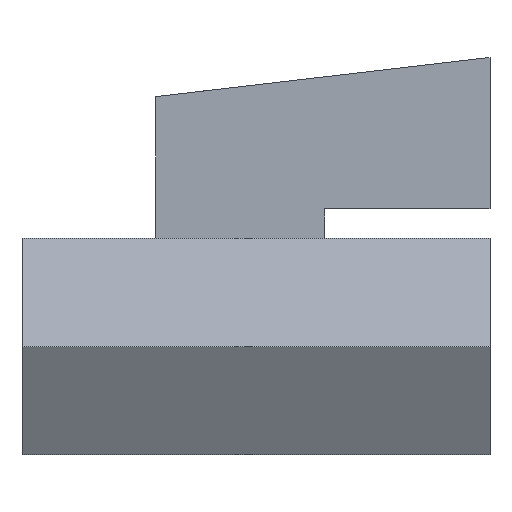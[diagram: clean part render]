
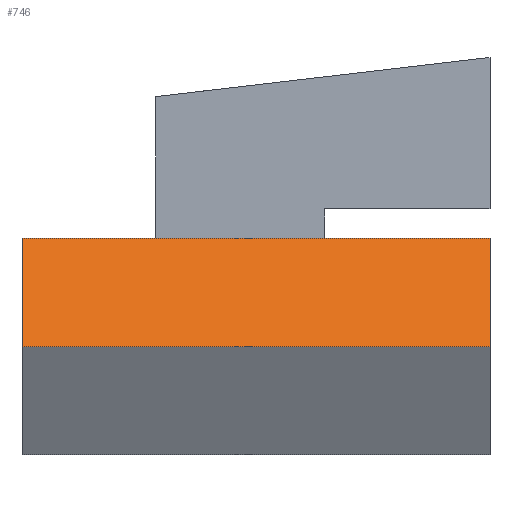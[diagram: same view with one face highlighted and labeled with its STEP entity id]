
A CAD part, front view. The second image highlights one B-rep face of the part: STEP entity #746.
In plain terms, the highlighted planar face has unit normal (0, -0.866, 0.5).
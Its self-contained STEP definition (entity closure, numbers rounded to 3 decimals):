
#24 = VERTEX_POINT('',#25);
#25 = CARTESIAN_POINT('',(-1.7,-0.227,0.393));
#32 = PLANE('',#33);
#33 = AXIS2_PLACEMENT_3D('',#34,#35,#36);
#34 = CARTESIAN_POINT('',(0.,0.,0.393));
#35 = DIRECTION('',(0.,0.,1.));
#36 = DIRECTION('',(0.,1.,0.));
#44 = PLANE('',#45);
#45 = AXIS2_PLACEMENT_3D('',#46,#47,#48);
#46 = CARTESIAN_POINT('',(-1.7,0.,0.)
  );
#47 = DIRECTION('',(1.,0.,0.));
#48 = DIRECTION('',(0.,0.,-1.));
#56 = EDGE_CURVE('',#57,#24,#59,.T.);
#57 = VERTEX_POINT('',#58);
#58 = CARTESIAN_POINT('',(0.,-0.227,0.393));
#59 = SURFACE_CURVE('',#60,(#64,#71),.PCURVE_S1.);
#60 = LINE('',#61,#62);
#61 = CARTESIAN_POINT('',(0.,-0.227,0.393));
#62 = VECTOR('',#63,1.);
#63 = DIRECTION('',(-1.,0.,0.));
#64 = PCURVE('',#32,#65);
#65 = DEFINITIONAL_REPRESENTATION('',(#66),#70);
#66 = LINE('',#67,#68);
#67 = CARTESIAN_POINT('',(-0.227,0.));
#68 = VECTOR('',#69,1.);
#69 = DIRECTION('',(0.,1.));
#70 = ( GEOMETRIC_REPRESENTATION_CONTEXT(2) 
PARAMETRIC_REPRESENTATION_CONTEXT() REPRESENTATION_CONTEXT('2D SPACE',''
  ) );
#71 = PCURVE('',#72,#77);
#72 = PLANE('',#73);
#73 = AXIS2_PLACEMENT_3D('',#74,#75,#76);
#74 = CARTESIAN_POINT('',(0.,-0.34,0.196));
#75 = DIRECTION('',(0.,-0.866,0.5));
#76 = DIRECTION('',(0.,0.5,0.866));
#77 = DEFINITIONAL_REPRESENTATION('',(#78),#82);
#78 = LINE('',#79,#80);
#79 = CARTESIAN_POINT('',(0.227,0.));
#80 = VECTOR('',#81,1.);
#81 = DIRECTION('',(0.,1.));
#82 = ( GEOMETRIC_REPRESENTATION_CONTEXT(2) 
PARAMETRIC_REPRESENTATION_CONTEXT() REPRESENTATION_CONTEXT('2D SPACE',''
  ) );
#100 = PLANE('',#101);
#101 = AXIS2_PLACEMENT_3D('',#102,#103,#104);
#102 = CARTESIAN_POINT('',(0.,0.,0.));
#103 = DIRECTION('',(1.,0.,0.));
#104 = DIRECTION('',(0.,0.,-1.));
#617 = PLANE('',#618);
#618 = AXIS2_PLACEMENT_3D('',#619,#620,#621);
#619 = CARTESIAN_POINT('',(0.,-0.34,-0.196));
#620 = DIRECTION('',(0.,-0.866,-0.5));
#621 = DIRECTION('',(0.,-0.5,0.866));
#746 = ADVANCED_FACE('',(#747),#72,.T.);
#747 = FACE_BOUND('',#748,.T.);
#748 = EDGE_LOOP('',(#749,#772,#795,#816));
#749 = ORIENTED_EDGE('',*,*,#750,.T.);
#750 = EDGE_CURVE('',#24,#751,#753,.T.);
#751 = VERTEX_POINT('',#752);
#752 = CARTESIAN_POINT('',(-1.7,-0.453,0.));
#753 = SURFACE_CURVE('',#754,(#758,#765),.PCURVE_S1.);
#754 = LINE('',#755,#756);
#755 = CARTESIAN_POINT('',(-1.7,-0.453,0.));
#756 = VECTOR('',#757,1.);
#757 = DIRECTION('',(0.,-0.5,-0.866));
#758 = PCURVE('',#72,#759);
#759 = DEFINITIONAL_REPRESENTATION('',(#760),#764);
#760 = LINE('',#761,#762);
#761 = CARTESIAN_POINT('',(-0.227,1.7));
#762 = VECTOR('',#763,1.);
#763 = DIRECTION('',(-1.,-0.));
#764 = ( GEOMETRIC_REPRESENTATION_CONTEXT(2) 
PARAMETRIC_REPRESENTATION_CONTEXT() REPRESENTATION_CONTEXT('2D SPACE',''
  ) );
#765 = PCURVE('',#44,#766);
#766 = DEFINITIONAL_REPRESENTATION('',(#767),#771);
#767 = LINE('',#768,#769);
#768 = CARTESIAN_POINT('',(0.,-0.453));
#769 = VECTOR('',#770,1.);
#770 = DIRECTION('',(0.866,-0.5));
#771 = ( GEOMETRIC_REPRESENTATION_CONTEXT(2) 
PARAMETRIC_REPRESENTATION_CONTEXT() REPRESENTATION_CONTEXT('2D SPACE',''
  ) );
#772 = ORIENTED_EDGE('',*,*,#773,.F.);
#773 = EDGE_CURVE('',#774,#751,#776,.T.);
#774 = VERTEX_POINT('',#775);
#775 = CARTESIAN_POINT('',(0.,-0.453,0.));
#776 = SURFACE_CURVE('',#777,(#781,#788),.PCURVE_S1.);
#777 = LINE('',#778,#779);
#778 = CARTESIAN_POINT('',(0.,-0.453,0.));
#779 = VECTOR('',#780,1.);
#780 = DIRECTION('',(-1.,0.,0.));
#781 = PCURVE('',#72,#782);
#782 = DEFINITIONAL_REPRESENTATION('',(#783),#787);
#783 = LINE('',#784,#785);
#784 = CARTESIAN_POINT('',(-0.227,-0.));
#785 = VECTOR('',#786,1.);
#786 = DIRECTION('',(0.,1.));
#787 = ( GEOMETRIC_REPRESENTATION_CONTEXT(2) 
PARAMETRIC_REPRESENTATION_CONTEXT() REPRESENTATION_CONTEXT('2D SPACE',''
  ) );
#788 = PCURVE('',#617,#789);
#789 = DEFINITIONAL_REPRESENTATION('',(#790),#794);
#790 = LINE('',#791,#792);
#791 = CARTESIAN_POINT('',(0.227,0.));
#792 = VECTOR('',#793,1.);
#793 = DIRECTION('',(0.,1.));
#794 = ( GEOMETRIC_REPRESENTATION_CONTEXT(2) 
PARAMETRIC_REPRESENTATION_CONTEXT() REPRESENTATION_CONTEXT('2D SPACE',''
  ) );
#795 = ORIENTED_EDGE('',*,*,#796,.T.);
#796 = EDGE_CURVE('',#774,#57,#797,.T.);
#797 = SURFACE_CURVE('',#798,(#802,#809),.PCURVE_S1.);
#798 = LINE('',#799,#800);
#799 = CARTESIAN_POINT('',(0.,-0.453,0.));
#800 = VECTOR('',#801,1.);
#801 = DIRECTION('',(0.,0.5,0.866));
#802 = PCURVE('',#72,#803);
#803 = DEFINITIONAL_REPRESENTATION('',(#804),#808);
#804 = LINE('',#805,#806);
#805 = CARTESIAN_POINT('',(-0.227,-0.));
#806 = VECTOR('',#807,1.);
#807 = DIRECTION('',(1.,0.));
#808 = ( GEOMETRIC_REPRESENTATION_CONTEXT(2) 
PARAMETRIC_REPRESENTATION_CONTEXT() REPRESENTATION_CONTEXT('2D SPACE',''
  ) );
#809 = PCURVE('',#100,#810);
#810 = DEFINITIONAL_REPRESENTATION('',(#811),#815);
#811 = LINE('',#812,#813);
#812 = CARTESIAN_POINT('',(0.,-0.453));
#813 = VECTOR('',#814,1.);
#814 = DIRECTION('',(-0.866,0.5));
#815 = ( GEOMETRIC_REPRESENTATION_CONTEXT(2) 
PARAMETRIC_REPRESENTATION_CONTEXT() REPRESENTATION_CONTEXT('2D SPACE',''
  ) );
#816 = ORIENTED_EDGE('',*,*,#56,.T.);
